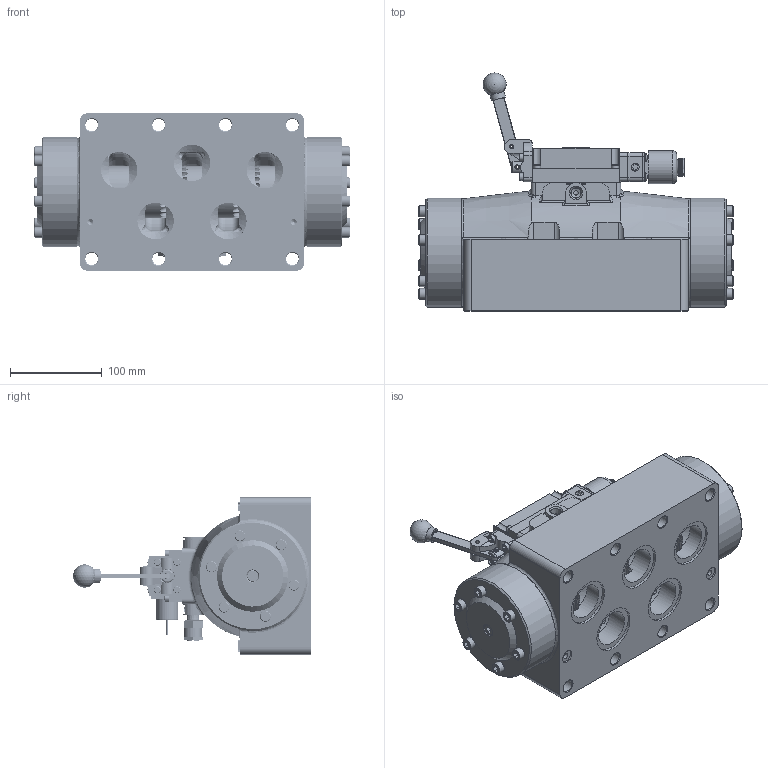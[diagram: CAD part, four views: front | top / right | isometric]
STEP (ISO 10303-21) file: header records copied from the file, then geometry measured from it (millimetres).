
FILE_DESCRIPTION(/* description */ (''),/* implementation_level */ '2;1');
FILE_NAME(/* name */ 'ESAH16PXOLZ.stp',/* time_stamp */ '2026-09-20T10:09:02-04:00',/* author */ ('rmckenna'),/* organization */ (''),/* preprocessor_version */ 'ST-DEVELOPER v20.2',/* originating_system */ 'Autodesk Inventor 2027',/* authorisation */ '');
FILE_SCHEMA (('AUTOMOTIVE_DESIGN { 1 0 10303 214 3 1 1 }'));
Products named in the file (1): Part46
Bounding box: 343.84 x 259.53 x 171.45 mm (x, y, z)
Volume: 4642864.8 mm3; surface area: 585518.8 mm2
Topology: 2 solids, 64 shells, 3409 faces, 8650 edges, 5506 vertices
Faces by surface type: plane 1489, cylinder 850, cone 486, torus 314, bspline 261, sphere 9
Full cylindrical faces by diameter (mm): 1.3 x1, 1.397 x1, 1.5 x1, 1.524 x3, 2.032 x11, 2.07 x2, 2.261 x2, 2.35 x4, 2.5 x1, 2.778 x2, 2.8 x1, 3 x4, 3.048 x2, 3.175 x9, 3.4 x1, 3.683 x14, 3.861 x2, 4.191 x2, 4.366 x2, 4.369 x3, 4.75 x2, 4.763 x9, 4.826 x12, 4.978 x4, 5.055 x1, 5.15 x4, 5.156 x8, 5.159 x4, 5.5 x1, 5.944 x3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
Entity records: 118590 total; most frequent: CARTESIAN_POINT 33671, ORIENTED_EDGE 17212, DIRECTION 16572, EDGE_CURVE 8606, AXIS2_PLACEMENT_3D 6230, VERTEX_POINT 5505, LINE 4112, VECTOR 4112
